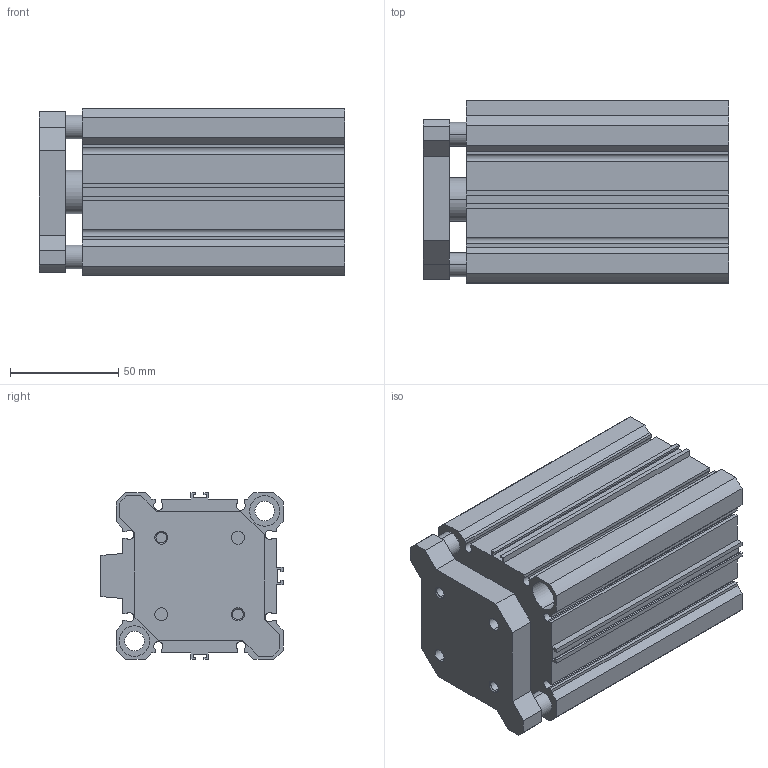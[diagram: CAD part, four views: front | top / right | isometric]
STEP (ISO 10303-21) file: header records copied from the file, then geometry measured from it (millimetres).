
FILE_DESCRIPTION (( 'STEP AP203' ), '1' );
FILE_NAME ('CCMG63-75.STEP', '2020-04-01T18:50:18', ( '' ), ( '' ), 'SwSTEP 2.0', 'SolidWorks 2019', '' );
FILE_SCHEMA (( 'CONFIG_CONTROL_DESIGN' ));
Length unit declared in the file: millimetre
Products named in the file (1): CCMG63-75
Bounding box: 141 x 84 x 77 mm (x, y, z)
Volume: 472288.9 mm3; surface area: 135434.5 mm2
Topology: 2 solids, 2 shells, 194 faces, 518 edges, 338 vertices
Faces by surface type: plane 114, cylinder 64, cone 16
Entity records: 6105 total; most frequent: CARTESIAN_POINT 1047, DIRECTION 1044, ORIENTED_EDGE 1028, EDGE_CURVE 514, LINE 374, VECTOR 374, VERTEX_POINT 338, AXIS2_PLACEMENT_3D 335
